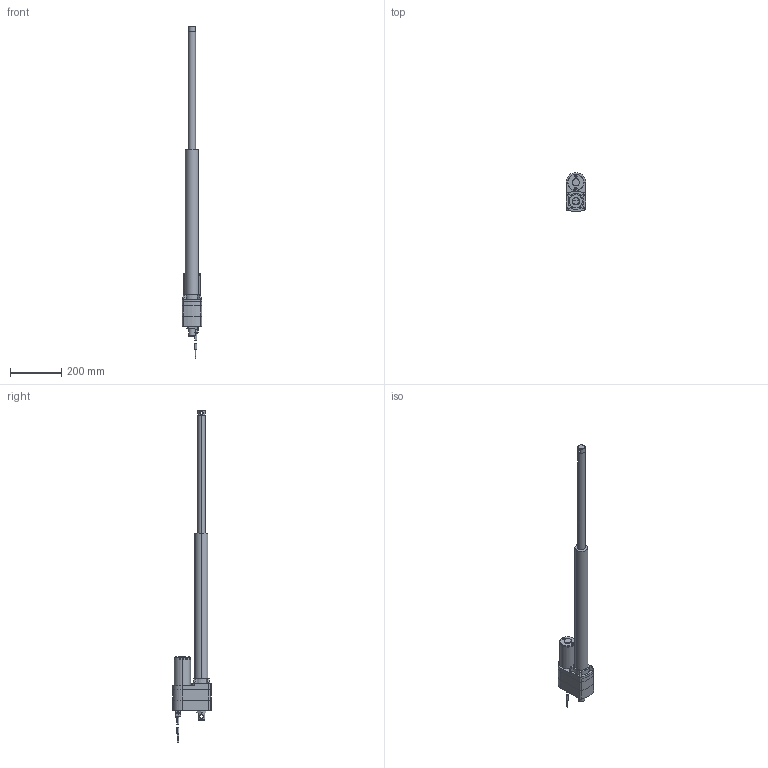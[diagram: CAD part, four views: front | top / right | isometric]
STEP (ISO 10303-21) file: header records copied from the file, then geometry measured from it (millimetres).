
FILE_DESCRIPTION (( 'STEP AP203' ), '1' );
FILE_NAME ('LA5_ACME_18x.step', '2021-02-24T15:18:13', ( '' ), ( '' ), 'SwSTEP 2.0', 'SolidWorks 2017', '' );
FILE_SCHEMA (( 'CONFIG_CONTROL_DESIGN' ));
Length unit declared in the file: millimetre
Products named in the file (1): LA5_ACME_18x
Bounding box: 77.22 x 151.29 x 1293.32 mm (x, y, z)
Volume: 2975300.3 mm3; surface area: 293248.6 mm2
Topology: 14 solids, 14 shells, 315 faces, 680 edges, 422 vertices
Faces by surface type: plane 154, cylinder 101, cone 24, bspline 22, torus 10, sphere 4
Entity records: 10570 total; most frequent: CARTESIAN_POINT 3606, DIRECTION 1477, ORIENTED_EDGE 1360, EDGE_CURVE 680, AXIS2_PLACEMENT_3D 573, VERTEX_POINT 422, EDGE_LOOP 352, LINE 331
